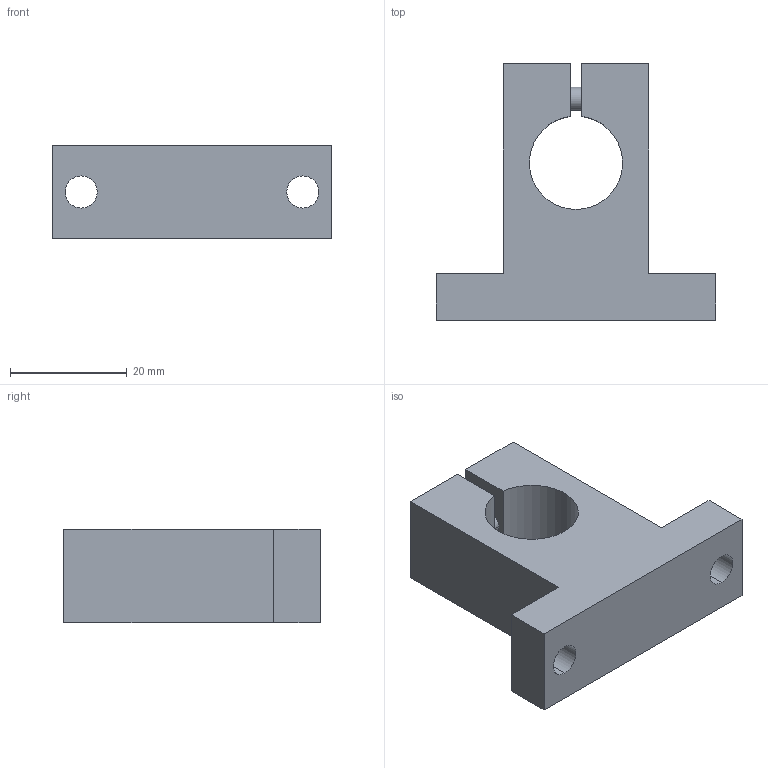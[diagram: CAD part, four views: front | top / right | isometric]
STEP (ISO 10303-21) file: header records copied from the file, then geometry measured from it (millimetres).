
FILE_DESCRIPTION (( 'STEP AP214' ), '1' );
FILE_NAME ('2.7110 Akselin päätykiinnike SK16.STEP', '2024-06-12T07:41:24', ( '' ), ( '' ), 'SwSTEP 2.0', 'SolidWorks 2024', '' );
FILE_SCHEMA (( 'AUTOMOTIVE_DESIGN' ));
Length unit declared in the file: millimetre
Products named in the file (1): 2.7110 Akselin päätykiinnike SK16
Bounding box: 48 x 44 x 16 mm (x, y, z)
Volume: 16650.5 mm3; surface area: 6420.1 mm2
Topology: 1 solids, 1 shells, 36 faces, 91 edges, 60 vertices
Faces by surface type: plane 22, cylinder 12, cone 2
Entity records: 1120 total; most frequent: DIRECTION 191, CARTESIAN_POINT 188, ORIENTED_EDGE 182, EDGE_CURVE 91, LINE 65, VECTOR 65, AXIS2_PLACEMENT_3D 63, VERTEX_POINT 60
